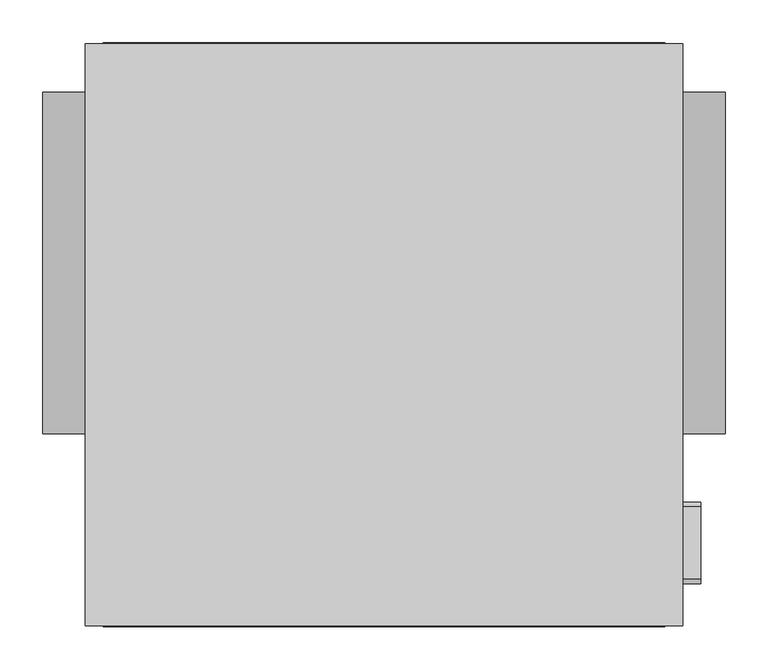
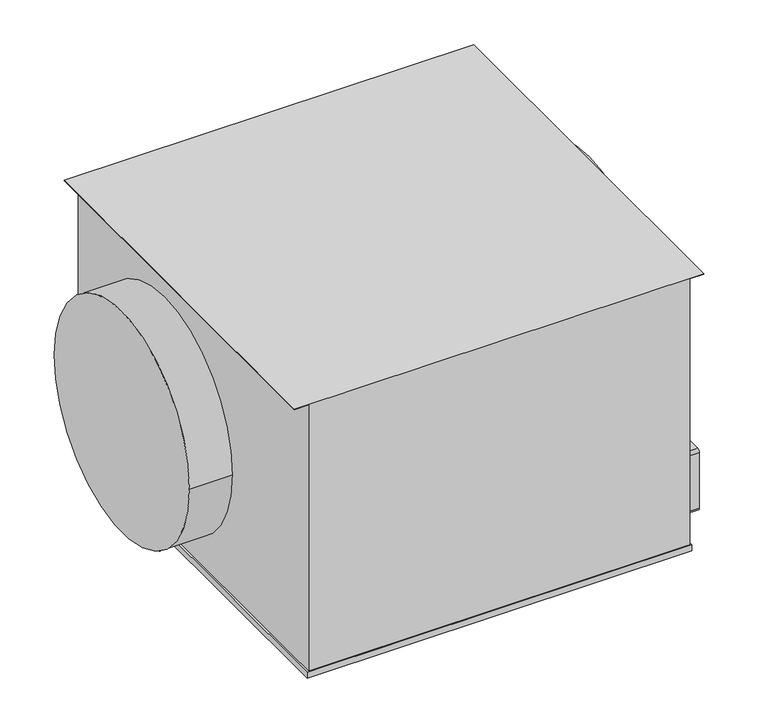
"""IFC4 building model written with IfcOpenShell, lengths in millimetres: unitary equipment geometry, VE-Wentylator-ParaForma-Harmann-ECOBOX_EC-Nawiewny : 400/2300EC."""

from ifc_helpers import new_model, si_unit, point, frame, frame_2d, origin, origin_2d, place, context, project, spatial, polyline, circle_curve, trimmed, segment, composite_curve, outline, extrude, source, transform, mapped, element, save


def unitary_equipment_ebf562d8(model_context):
    return source(origin(), model_context, "Body", "SweptSolid", [
        extrude(outline(composite_curve([segment(trimmed(circle_curve(frame_2d((-369.6, -197.1)), 5.0), [point((-369.6, -202.1))], [point((-374.6, -197.1))], False, "CARTESIAN"), True, "CONTINUOUS"), segment(polyline([(-374.6, -197.1), (-374.6, -97.1)]), True, "CONTINUOUS"), segment(trimmed(circle_curve(frame_2d((-369.6, -97.1)), 5.0), [point((-374.6, -97.1))], [point((-369.6, -92.1))], False, "CARTESIAN"), True, "CONTINUOUS"), segment(polyline([(-369.6, -92.1), (-284.6, -92.1)]), True, "CONTINUOUS"), segment(trimmed(circle_curve(frame_2d((-284.6, -97.1)), 5.0), [point((-284.6, -92.1))], [point((-279.6, -97.1))], False, "CARTESIAN"), True, "CONTINUOUS"), segment(polyline([(-279.6, -97.1), (-279.6, -197.1)]), True, "CONTINUOUS"), segment(trimmed(circle_curve(frame_2d((-284.6, -197.1)), 5.0), [point((-279.6, -197.1))], [point((-284.6, -202.1))], False, "CARTESIAN"), True, "CONTINUOUS"), segment(polyline([(-284.6, -202.1), (-369.6, -202.1)]), True, "CONTINUOUS")], self_intersect=False)), frame((325.0, 0.0, 0.0), z_axis=(1.0, 0.0, 0.0), x_axis=(0.0, 1.0, 0.0)), (0.0, 0.0, 1.0), 45.0),
        extrude(outline(polyline([(-327.9, -425.1), (-327.9, 257.1), (327.9, 257.1), (327.9, -425.1), (-327.9, -425.1)])), frame((0.0, 0.0, -228.8), z_axis=(0.0, 0.0, 1.0), x_axis=(1.0, 0.0, 0.0)), (0.0, 0.0, 1.0), 10.8),
        extrude(outline(polyline([(263.0, -349.0), (262.0, -349.0), (262.0, -325.0), (-218.0, -325.0), (-218.0, 325.0), (262.0, 325.0), (262.0, 349.0), (263.0, 349.0), (263.0, -349.0)])), frame((0.0, -424.0, 0.0), z_axis=(0.0, 1.0, 0.0), x_axis=(0.0, 0.0, 1.0)), (0.0, 0.0, 1.0), 680.0),
        extrude(outline(composite_curve([segment(trimmed(circle_curve(origin_2d(), 199.5), [point((-199.5, 0.0))], [point((199.5, 0.0))], False, "CARTESIAN"), True, "CONTINUOUS"), segment(trimmed(circle_curve(origin_2d(), 199.5), [point((199.5, 0.0))], [point((-199.5, 0.0))], False, "CARTESIAN"), True, "CONTINUOUS")], self_intersect=False)), frame((325.0, 0.0, 0.0), z_axis=(1.0, 0.0, 0.0), x_axis=(0.0, 1.0, 0.0)), (0.0, 0.0, 1.0), 73.5),
        extrude(outline(composite_curve([segment(trimmed(circle_curve(origin_2d(), 199.5), [point((-199.5, 0.0))], [point((199.5, 0.0))], False, "CARTESIAN"), True, "CONTINUOUS"), segment(trimmed(circle_curve(origin_2d(), 199.5), [point((199.5, 0.0))], [point((-199.5, 0.0))], False, "CARTESIAN"), True, "CONTINUOUS")], self_intersect=False)), frame((-398.5, 0.0, 0.0), z_axis=(1.0, 0.0, 0.0), x_axis=(0.0, 1.0, 0.0)), (0.0, 0.0, 1.0), 73.5),
    ])


if __name__ == "__main__":
    model = new_model("IFC4")
    model_context = context("Model", 3, world=origin())
    ifc_project = project(units=[si_unit("LENGTHUNIT", "METRE", prefix="MILLI")], contexts=[model_context])
    site = spatial("IfcSite", under=ifc_project)
    building = spatial("IfcBuilding", under=site)
    placement = place(None, origin())
    unitary_equipment_shape = unitary_equipment_ebf562d8(model_context)
    element("IfcUnitaryEquipment", 1, ObjectType="VE-Wentylator-ParaForma-Harmann-ECOBOX_EC-Nawiewny : 400/2300EC", at=placement, inside=building, context=model_context, shape_type="MappedRepresentation", body=[
        mapped(unitary_equipment_shape, transform((0.0, 0.0, 0.0), x_axis=(1.0, 0.0, 0.0), y_axis=(0.0, 1.0, 0.0), z_axis=(0.0, 0.0, 1.0))),
    ])
    save(model, "model.ifc")
